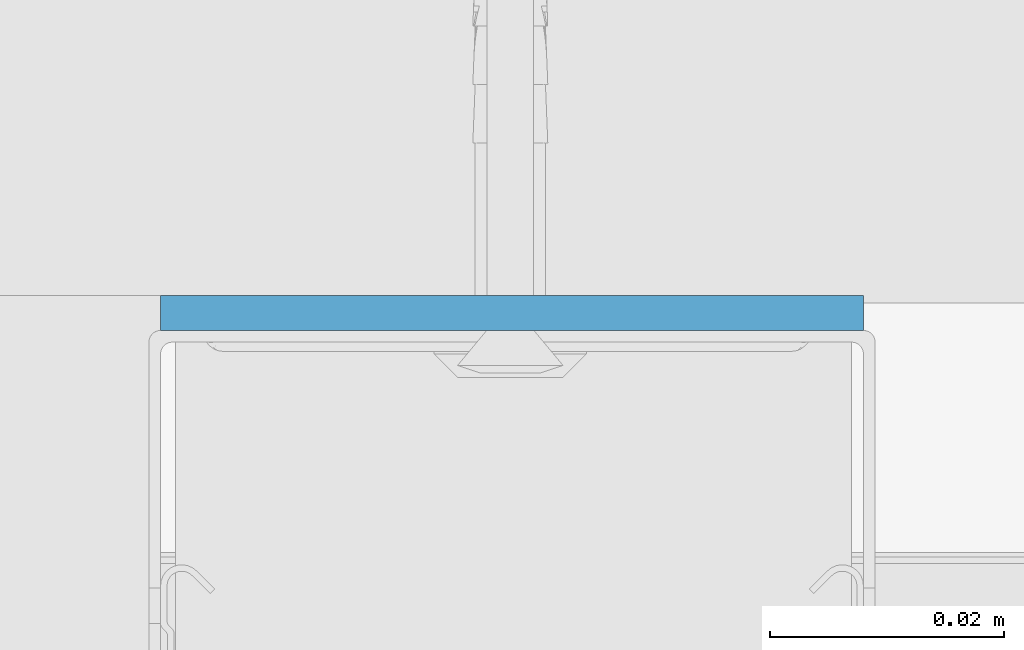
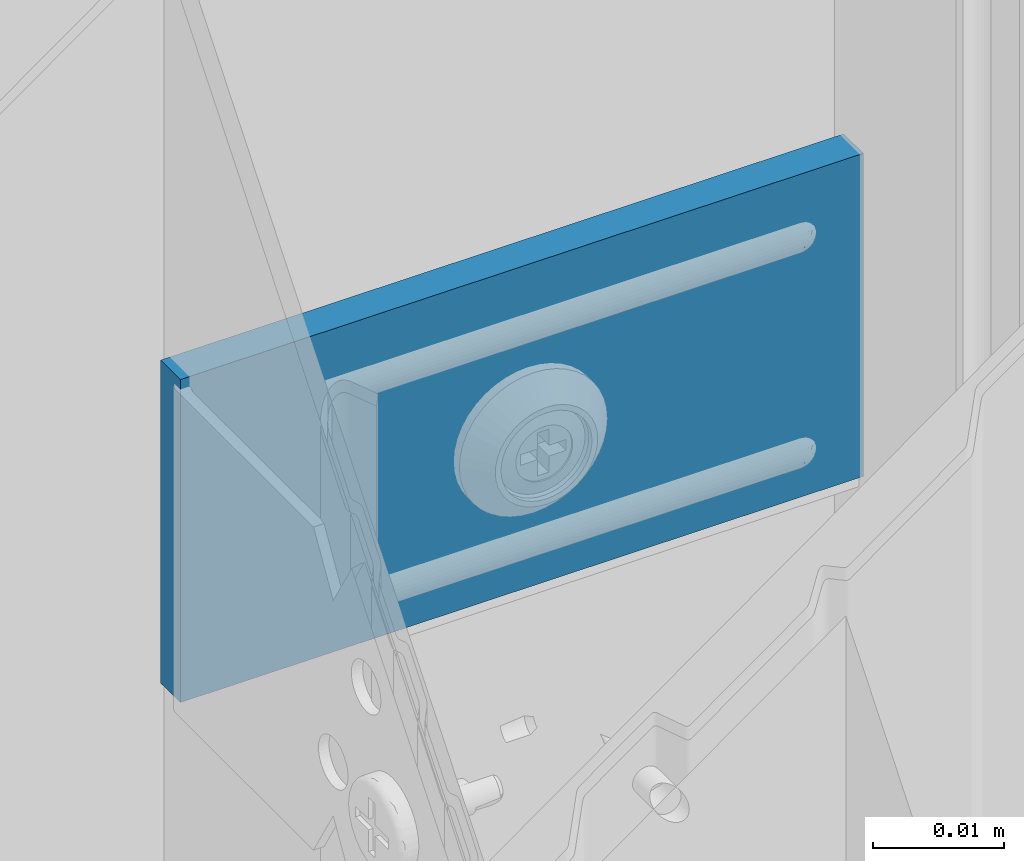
# One storey, part 43 of 47: 1 wall.
"""IFC2X3 building model written with IfcOpenShell, lengths in millimetres."""

from ifc_helpers import new_model, entity, si_unit, converted_unit, direction, frame, origin, origin_with_axes, place, context, project, spatial, faceted_brep, element, save


model = new_model("IFC2X3")

# Units and contexts
model_context = context("Model", 3, precision=1e-05, world=origin(), true_north=direction((0.0, 1.0, 0.0)))
ifc_project = project(units=[si_unit("LENGTHUNIT", "METRE", prefix="MILLI"), si_unit("AREAUNIT", "SQUARE_METRE"), si_unit("VOLUMEUNIT", "CUBIC_METRE"), converted_unit("PLANEANGLEUNIT", "DEGREE", entity("IfcPlaneAngleMeasure", 0.01745), si_unit("PLANEANGLEUNIT", "RADIAN"), dimensions=[0, 0, 0, 0, 0, 0, 0]), si_unit("SOLIDANGLEUNIT", "STERADIAN"), si_unit("MASSUNIT", "GRAM"), si_unit("TIMEUNIT", "SECOND"), si_unit("THERMODYNAMICTEMPERATUREUNIT", "DEGREE_CELSIUS"), si_unit("LUMINOUSINTENSITYUNIT", "LUMEN")], contexts=[model_context])

# Site, building, storey
site_placement = place(None, origin_with_axes())
site = spatial("IfcSite", under=ifc_project, at=site_placement, Name="Default Site", CompositionType="ELEMENT")
building_placement = place(site_placement, origin_with_axes())
building = spatial("IfcBuilding", under=site, at=building_placement, Name="Default Building", CompositionType="ELEMENT")
storey_placement = place(building_placement, origin_with_axes())
storey = spatial("IfcBuildingStorey", under=building, at=storey_placement, Name="Default Building Storey", CompositionType="ELEMENT", Elevation=0.0)

# Wall
wall_placement = place(storey_placement, frame((3458.037086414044, 2019.778611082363, 120.9602480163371), z_axis=(0.0, 0.0, 1.0), x_axis=(1.0, 0.0, 0.0)))
element("IfcWall", 1, at=wall_placement, inside=storey, Name="Taśma uszczelniająca piankowa RIGIPS szer.30mm", context=model_context, shape_type="Brep", body=[
    faceted_brep([(59.99999999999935, 0.0, 4.511946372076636e-12), (0.0, 0.0, 0.0), (1.082867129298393e-12, -2.237925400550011e-11, -30.00000000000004), (60.00000000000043, -2.237925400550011e-11, -29.99999999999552), (0.0, 3.00000000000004, 0.0), (1.082867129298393e-12, 2.999999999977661, -30.00000000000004), (60.00000000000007, 3.00000000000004, 0.0), (60.00000000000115, 2.999999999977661, -30.00000000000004)], [[[0, 1, 2, 3]], [[1, 4, 5, 2]], [[4, 6, 7, 5]], [[6, 0, 3, 7]], [[7, 3, 2, 5]], [[0, 6, 4, 1]]]),
])

save(model, "model.ifc")
